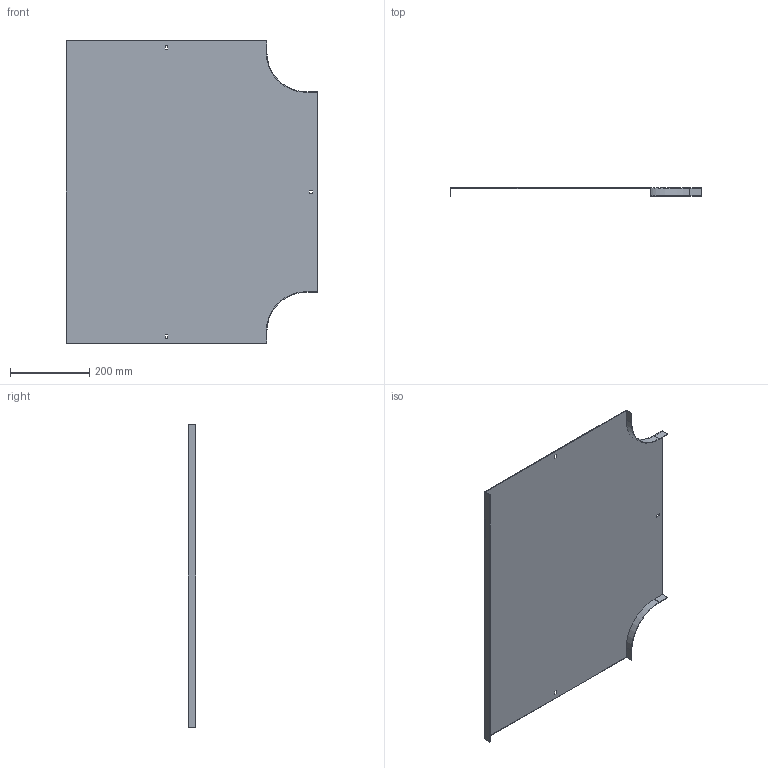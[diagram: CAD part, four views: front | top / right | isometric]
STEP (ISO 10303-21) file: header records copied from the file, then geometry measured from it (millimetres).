
FILE_DESCRIPTION (( 'STEP AP214' ), '1' );
FILE_NAME ('15G1R500.step', '2025-02-21T13:02:53', ( '' ), ( '' ), 'SwSTEP 2.0', 'SolidWorks 2023', '' );
FILE_SCHEMA (( 'AUTOMOTIVE_DESIGN' ));
Length unit declared in the file: millimetre
Products named in the file (1): 15G1R500
Bounding box: 635.5 x 20 x 764 mm (x, y, z)
Volume: 717912.9 mm3; surface area: 961594.9 mm2
Topology: 1 solids, 1 shells, 34 faces, 96 edges, 64 vertices
Faces by surface type: plane 30, cylinder 4
Entity records: 1123 total; most frequent: CARTESIAN_POINT 195, ORIENTED_EDGE 192, DIRECTION 174, EDGE_CURVE 96, VECTOR 88, LINE 88, VERTEX_POINT 64, AXIS2_PLACEMENT_3D 43
